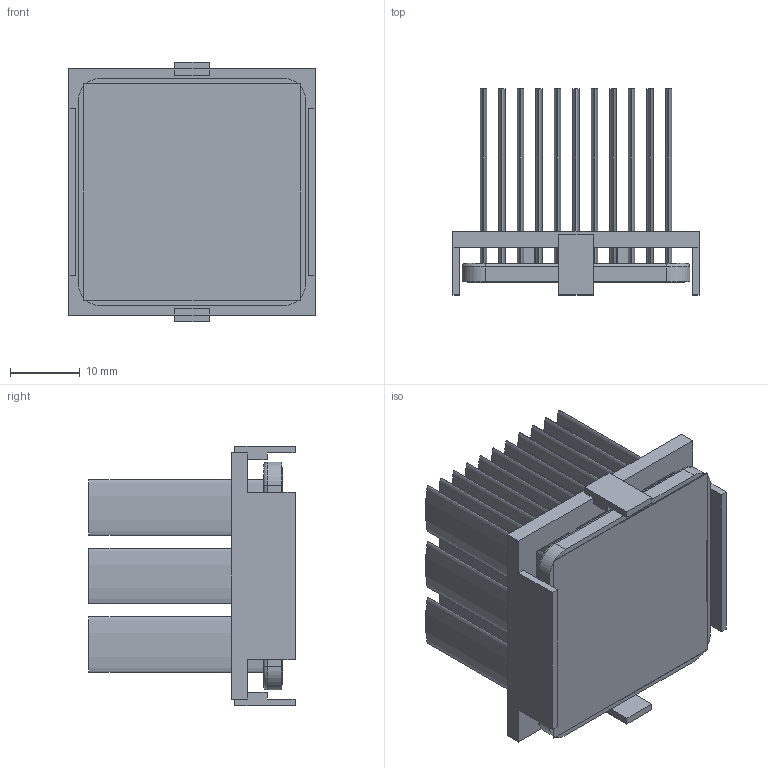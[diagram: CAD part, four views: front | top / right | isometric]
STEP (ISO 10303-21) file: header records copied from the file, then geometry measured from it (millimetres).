
FILE_DESCRIPTION (( 'STEP AP214' ), '1' );
FILE_NAME ('INM33001-28W-2.6BU.STEP', '2023-02-20T19:10:14', ( '' ), ( '' ), 'SwSTEP 2.0', 'SolidWorks 2020', '' );
FILE_SCHEMA (( 'AUTOMOTIVE_DESIGN' ));
Length unit declared in the file: inch
Products named in the file (1): INM33001-28W-2.6BU
Bounding box: 35.2 x 29.5 x 37.2 mm (x, y, z)
Volume: 9636.8 mm3; surface area: 20468.1 mm2
Topology: 3 solids, 3 shells, 181 faces, 418 edges, 276 vertices
Faces by surface type: plane 103, bspline 66, cylinder 8, torus 4
Entity records: 7645 total; most frequent: CARTESIAN_POINT 1734, ORIENTED_EDGE 836, DIRECTION 538, EDGE_CURVE 418, VERTEX_POINT 276, LINE 266, VECTOR 266, EDGE_LOOP 216
